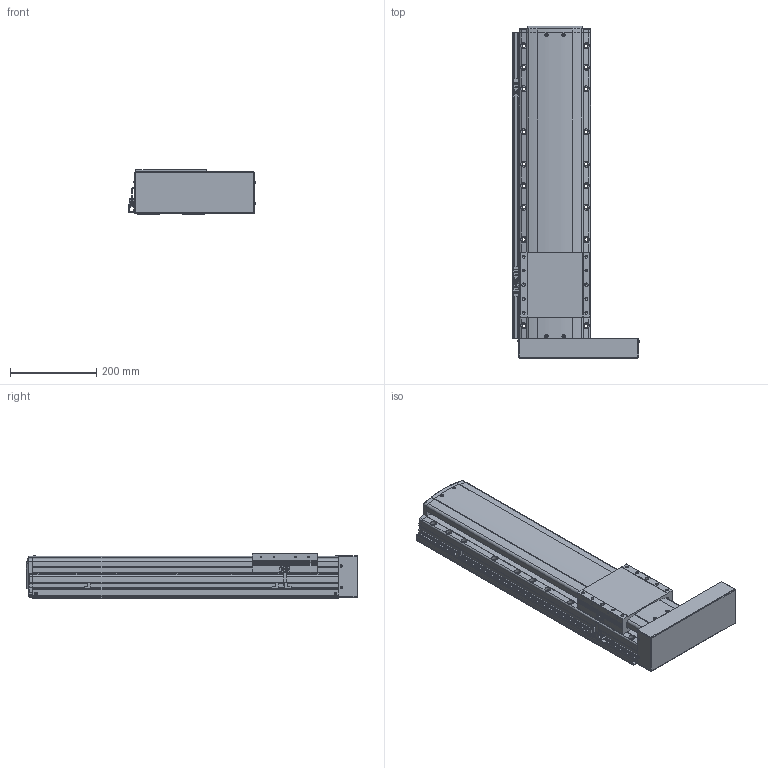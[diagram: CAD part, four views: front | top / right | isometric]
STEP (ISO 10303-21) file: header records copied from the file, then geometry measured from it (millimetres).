
FILE_DESCRIPTION(('STEP AP214'),'1');
FILE_NAME('Z:/Web/3D/PSA165/STP/PSA165-450 (3D)/PSA165ㅁㅁ-450PR+3SL.stp','2014-06-23T11:23:40',(' '),(' '),'Spatial InterOp 3D',' ',' ');
FILE_SCHEMA(('automotive_design'));
Length unit declared in the file: millimetre
Products named in the file (41): 스크루 : Round - M4.0 x 12.0; RRCV-PA160; BASE; 스크루 : Round - M4.0 x 10.0; RN15; Screw 20; SLIDE; FRCV; MTPL; 스크루 : Round - M3.0 x 6.0; M3.0 x 6.0; SRL-16x17-360L; SGD-SAN150; EE-SX674; SBK-SX674-352; BHCS M4.0 x 10.0
Bounding box: 294.46 x 770.8 x 104 mm (x, y, z)
Volume: 11375172 mm3; surface area: 867162.5 mm2
Topology: 41 solids, 41 shells, 2492 faces, 6669 edges, 4285 vertices
Faces by surface type: plane 1443, cylinder 735, cone 209, sphere 64, bspline 25, torus 16
Entity records: 100993 total; most frequent: CARTESIAN_POINT 17393, DIRECTION 13287, ORIENTED_EDGE 13062, EDGE_CURVE 6531, AXIS2_PLACEMENT_3D 4433, LINE 4421, VECTOR 4421, VERTEX_POINT 4285
